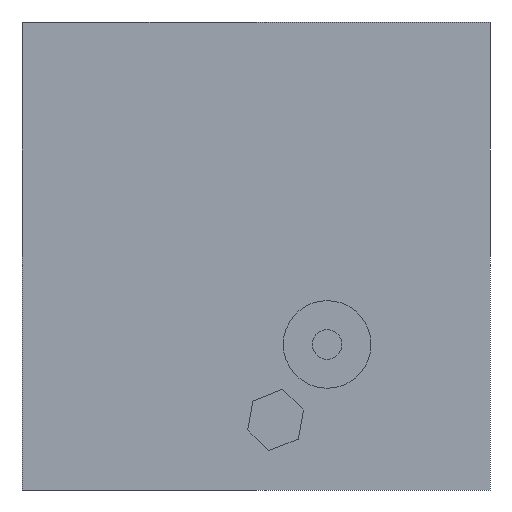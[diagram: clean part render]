
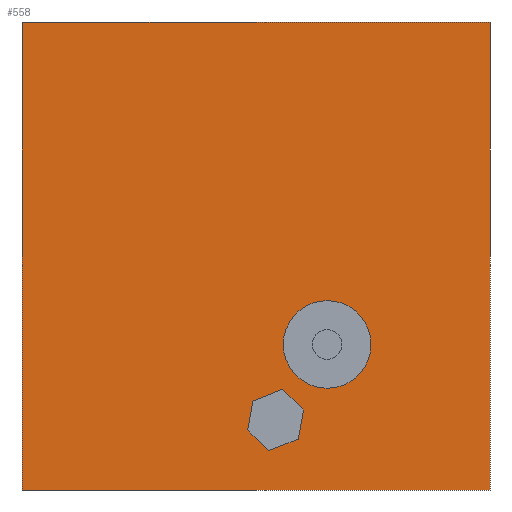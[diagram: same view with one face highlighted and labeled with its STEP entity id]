
A CAD part, front view. The second image highlights one B-rep face of the part: STEP entity #558.
In plain terms, the highlighted planar face has unit normal (0, -1, 0).
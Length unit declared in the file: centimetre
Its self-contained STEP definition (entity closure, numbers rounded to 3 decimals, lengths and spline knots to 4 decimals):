
#16 = VERTEX_POINT ( 'NONE', #149 ) ;
#19 = VERTEX_POINT ( 'NONE', #647 ) ;
#21 = ORIENTED_EDGE ( 'NONE', *, *, #442, .F. ) ;
#25 = EDGE_CURVE ( 'NONE', #77, #274, #589, .T. ) ;
#31 = EDGE_LOOP ( 'NONE', ( #666, #411, #75, #78, #529, #298 ) ) ;
#33 = EDGE_CURVE ( 'NONE', #66, #415, #490, .T. ) ;
#48 = CARTESIAN_POINT ( 'NONE',  ( 1000., 0., 1000. ) ) ;
#52 = LINE ( 'NONE', #218, #702 ) ;
#53 = EDGE_CURVE ( 'NONE', #552, #510, #624, .T. ) ;
#60 = DIRECTION ( 'NONE',  ( 0., -1., 0. ) ) ;
#66 = VERTEX_POINT ( 'NONE', #107 ) ;
#75 = ORIENTED_EDGE ( 'NONE', *, *, #477, .F. ) ;
#77 = VERTEX_POINT ( 'NONE', #548 ) ;
#78 = ORIENTED_EDGE ( 'NONE', *, *, #661, .F. ) ;
#98 = CARTESIAN_POINT ( 'NONE',  ( 493.7963, 0., 190.5678 ) ) ;
#102 = CARTESIAN_POINT ( 'NONE',  ( 493.7963, 0., 190.5678 ) ) ;
#107 = CARTESIAN_POINT ( 'NONE',  ( 556.9335, 0., 215.3986 ) ) ;
#126 = VECTOR ( 'NONE', #646, 100. ) ;
#149 = CARTESIAN_POINT ( 'NONE',  ( 0., 0., 1000. ) ) ;
#150 = FACE_BOUND ( 'NONE', #31, .T. ) ;
#154 = LINE ( 'NONE', #703, #242 ) ;
#162 = LINE ( 'NONE', #212, #327 ) ;
#178 = EDGE_LOOP ( 'NONE', ( #228, #398, #448, #620 ) ) ;
#199 = LINE ( 'NONE', #539, #375 ) ;
#212 = CARTESIAN_POINT ( 'NONE',  ( 0., 0., 1000. ) ) ;
#216 = EDGE_CURVE ( 'NONE', #673, #274, #294, .T. ) ;
#218 = CARTESIAN_POINT ( 'NONE',  ( 526.9603, 0., 83.8487 ) ) ;
#228 = ORIENTED_EDGE ( 'NONE', *, *, #25, .T. ) ;
#242 = VECTOR ( 'NONE', #256, 100. ) ;
#248 = CARTESIAN_POINT ( 'NONE',  ( 0., 0., 1000. ) ) ;
#254 = VECTOR ( 'NONE', #483, 100. ) ;
#256 = DIRECTION ( 'NONE',  ( 0.707, 0., -0.707 ) ) ;
#258 = CARTESIAN_POINT ( 'NONE',  ( 651.9901, 0., 310.9911 ) ) ;
#262 = PLANE ( 'NONE',  #265 ) ;
#265 = AXIS2_PLACEMENT_3D ( 'NONE', #248, #530, #372 ) ;
#274 = VERTEX_POINT ( 'NONE', #397 ) ;
#278 = VECTOR ( 'NONE', #603, 100. ) ;
#294 = LINE ( 'NONE', #518, #315 ) ;
#298 = ORIENTED_EDGE ( 'NONE', *, *, #33, .F. ) ;
#314 = AXIS2_PLACEMENT_3D ( 'NONE', #258, #60, #538 ) ;
#315 = VECTOR ( 'NONE', #410, 100. ) ;
#317 = CARTESIAN_POINT ( 'NONE',  ( 651.9901, 0., 404.6369 ) ) ;
#327 = VECTOR ( 'NONE', #387, 100. ) ;
#359 = VECTOR ( 'NONE', #644, 100. ) ;
#363 = LINE ( 'NONE', #430, #126 ) ;
#364 = EDGE_LOOP ( 'NONE', ( #21, #617 ) ) ;
#372 = DIRECTION ( 'NONE',  ( 0., 0., 1. ) ) ;
#375 = VECTOR ( 'NONE', #585, 100. ) ;
#381 = EDGE_CURVE ( 'NONE', #573, #66, #363, .T. ) ;
#383 = CARTESIAN_POINT ( 'NONE',  ( 651.9901, 0., 217.3452 ) ) ;
#387 = DIRECTION ( 'NONE',  ( 0., 0., -1. ) ) ;
#397 = CARTESIAN_POINT ( 'NONE',  ( 1000., 0., 0. ) ) ;
#398 = ORIENTED_EDGE ( 'NONE', *, *, #216, .F. ) ;
#402 = AXIS2_PLACEMENT_3D ( 'NONE', #652, #469, #581 ) ;
#410 = DIRECTION ( 'NONE',  ( 0., 0., -1. ) ) ;
#411 = ORIENTED_EDGE ( 'NONE', *, *, #619, .F. ) ;
#415 = VERTEX_POINT ( 'NONE', #98 ) ;
#421 = LINE ( 'NONE', #102, #254 ) ;
#423 = CARTESIAN_POINT ( 'NONE',  ( 0., 0., 0. ) ) ;
#430 = CARTESIAN_POINT ( 'NONE',  ( 601.4809, 0., 170.8512 ) ) ;
#442 = EDGE_CURVE ( 'NONE', #510, #552, #638, .T. ) ;
#448 = ORIENTED_EDGE ( 'NONE', *, *, #621, .F. ) ;
#456 = VERTEX_POINT ( 'NONE', #487 ) ;
#469 = DIRECTION ( 'NONE',  ( 0., -1., 0. ) ) ;
#471 = FACE_OUTER_BOUND ( 'NONE', #178, .T. ) ;
#474 = CARTESIAN_POINT ( 'NONE',  ( 601.4809, 0., 170.8512 ) ) ;
#477 = EDGE_CURVE ( 'NONE', #19, #559, #52, .T. ) ;
#483 = DIRECTION ( 'NONE',  ( -0.18, 0., -0.984 ) ) ;
#487 = CARTESIAN_POINT ( 'NONE',  ( 482.4129, 0., 128.3961 ) ) ;
#490 = LINE ( 'NONE', #656, #359 ) ;
#493 = EDGE_CURVE ( 'NONE', #16, #77, #162, .T. ) ;
#510 = VERTEX_POINT ( 'NONE', #383 ) ;
#518 = CARTESIAN_POINT ( 'NONE',  ( 1000., 0., 1000. ) ) ;
#529 = ORIENTED_EDGE ( 'NONE', *, *, #569, .F. ) ;
#530 = DIRECTION ( 'NONE',  ( 0., 1., 0. ) ) ;
#538 = DIRECTION ( 'NONE',  ( 0., 0., -1. ) ) ;
#539 = CARTESIAN_POINT ( 'NONE',  ( 0., 0., 1000. ) ) ;
#546 = DIRECTION ( 'NONE',  ( 0.931, 0., 0.366 ) ) ;
#548 = CARTESIAN_POINT ( 'NONE',  ( 0., 0., 0. ) ) ;
#552 = VERTEX_POINT ( 'NONE', #317 ) ;
#558 = ADVANCED_FACE ( 'NONE', ( #150, #695, #471 ), #262, .F. ) ;
#559 = VERTEX_POINT ( 'NONE', #645 ) ;
#569 = EDGE_CURVE ( 'NONE', #415, #456, #421, .T. ) ;
#573 = VERTEX_POINT ( 'NONE', #474 ) ;
#581 = DIRECTION ( 'NONE',  ( 0., 0., -1. ) ) ;
#585 = DIRECTION ( 'NONE',  ( 1., 0., 0. ) ) ;
#589 = LINE ( 'NONE', #423, #278 ) ;
#603 = DIRECTION ( 'NONE',  ( 1., 0., 0. ) ) ;
#617 = ORIENTED_EDGE ( 'NONE', *, *, #53, .F. ) ;
#619 = EDGE_CURVE ( 'NONE', #559, #573, #688, .T. ) ;
#620 = ORIENTED_EDGE ( 'NONE', *, *, #493, .T. ) ;
#621 = EDGE_CURVE ( 'NONE', #16, #673, #199, .T. ) ;
#624 = CIRCLE ( 'NONE', #314, 93.6458 ) ;
#638 = CIRCLE ( 'NONE', #402, 93.6458 ) ;
#639 = CARTESIAN_POINT ( 'NONE',  ( 590.0975, 0., 108.6794 ) ) ;
#644 = DIRECTION ( 'NONE',  ( -0.931, 0., -0.366 ) ) ;
#645 = CARTESIAN_POINT ( 'NONE',  ( 590.0975, 0., 108.6794 ) ) ;
#646 = DIRECTION ( 'NONE',  ( -0.707, 0., 0.707 ) ) ;
#647 = CARTESIAN_POINT ( 'NONE',  ( 526.9603, 0., 83.8487 ) ) ;
#652 = CARTESIAN_POINT ( 'NONE',  ( 651.9901, 0., 310.9911 ) ) ;
#656 = CARTESIAN_POINT ( 'NONE',  ( 556.9335, 0., 215.3986 ) ) ;
#661 = EDGE_CURVE ( 'NONE', #456, #19, #154, .T. ) ;
#666 = ORIENTED_EDGE ( 'NONE', *, *, #381, .F. ) ;
#673 = VERTEX_POINT ( 'NONE', #48 ) ;
#681 = VECTOR ( 'NONE', #693, 100. ) ;
#688 = LINE ( 'NONE', #639, #681 ) ;
#693 = DIRECTION ( 'NONE',  ( 0.18, 0., 0.984 ) ) ;
#695 = FACE_BOUND ( 'NONE', #364, .T. ) ;
#702 = VECTOR ( 'NONE', #546, 100. ) ;
#703 = CARTESIAN_POINT ( 'NONE',  ( 482.4129, 0., 128.3961 ) ) ;
